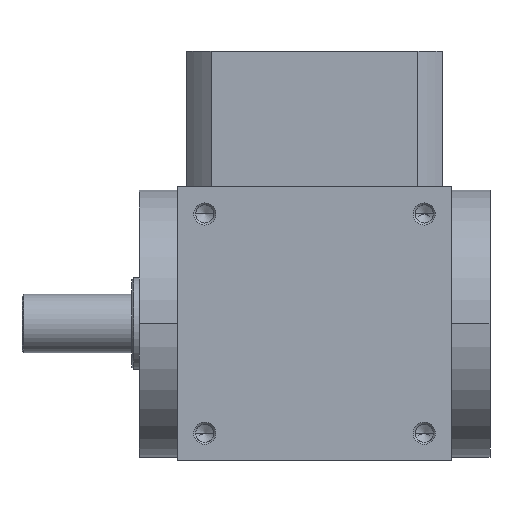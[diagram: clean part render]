
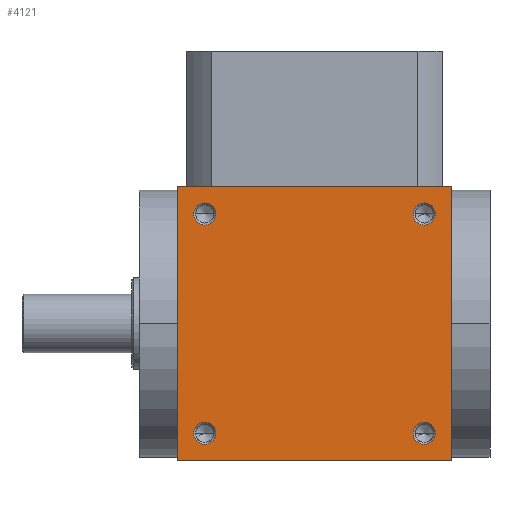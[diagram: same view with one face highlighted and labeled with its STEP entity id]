
A CAD part, front view. The second image highlights one B-rep face of the part: STEP entity #4121.
In plain terms, the highlighted planar face has unit normal (0, -1, 0).
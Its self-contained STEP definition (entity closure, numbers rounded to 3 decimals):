
#15 = FACE_BOUND ( 'NONE', #4663, .T. ) ;
#172 = VERTEX_POINT ( 'NONE', #9677 ) ;
#402 = DIRECTION ( 'NONE',  ( -1., 0., 0. ) ) ;
#453 = CIRCLE ( 'NONE', #8438, 3.025 ) ;
#536 = CARTESIAN_POINT ( 'NONE',  ( 35.842, -49.572, 46. ) ) ;
#553 = ORIENTED_EDGE ( 'NONE', *, *, #8651, .F. ) ;
#616 = ORIENTED_EDGE ( 'NONE', *, *, #8569, .F. ) ;
#950 = EDGE_LOOP ( 'NONE', ( #3427, #10493, #8326, #8794 ) ) ;
#1019 = AXIS2_PLACEMENT_3D ( 'NONE', #3985, #4799, #2172 ) ;
#1033 = AXIS2_PLACEMENT_3D ( 'NONE', #2635, #3812, #402 ) ;
#1080 = DIRECTION ( 'NONE',  ( 0., -1., 0. ) ) ;
#1349 = CARTESIAN_POINT ( 'NONE',  ( 40.317, -49.572, 53.5 ) ) ;
#1392 = VERTEX_POINT ( 'NONE', #1989 ) ;
#1418 = EDGE_CURVE ( 'NONE', #5188, #6609, #6319, .T. ) ;
#1420 = EDGE_CURVE ( 'NONE', #10527, #9536, #5464, .T. ) ;
#1458 = ORIENTED_EDGE ( 'NONE', *, *, #8696, .F. ) ;
#1629 = CARTESIAN_POINT ( 'NONE',  ( 29.792, -49.572, 46. ) ) ;
#1655 = CARTESIAN_POINT ( 'NONE',  ( 2.817, -49.572, 16. ) ) ;
#1762 = CARTESIAN_POINT ( 'NONE',  ( -27.183, -49.572, -14. ) ) ;
#1989 = CARTESIAN_POINT ( 'NONE',  ( -34.683, -49.572, 53.5 ) ) ;
#2042 = ORIENTED_EDGE ( 'NONE', *, *, #2986, .F. ) ;
#2056 = DIRECTION ( 'NONE',  ( 0., -1., 0. ) ) ;
#2172 = DIRECTION ( 'NONE',  ( -1., 0., 0. ) ) ;
#2299 = CARTESIAN_POINT ( 'NONE',  ( -27.183, -49.572, 46. ) ) ;
#2459 = DIRECTION ( 'NONE',  ( 0., 1., 0. ) ) ;
#2482 = AXIS2_PLACEMENT_3D ( 'NONE', #1762, #6271, #9554 ) ;
#2635 = CARTESIAN_POINT ( 'NONE',  ( 32.817, -49.572, -14. ) ) ;
#2738 = EDGE_CURVE ( 'NONE', #6859, #7564, #7023, .T. ) ;
#2867 = DIRECTION ( 'NONE',  ( 0., -1., 0. ) ) ;
#2893 = DIRECTION ( 'NONE',  ( 0., 0., -1. ) ) ;
#2913 = DIRECTION ( 'NONE',  ( 1., 0., 0. ) ) ;
#2969 = DIRECTION ( 'NONE',  ( -1., 0., 0. ) ) ;
#2986 = EDGE_CURVE ( 'NONE', #9685, #172, #5394, .T. ) ;
#3333 = AXIS2_PLACEMENT_3D ( 'NONE', #9837, #2056, #2969 ) ;
#3408 = VECTOR ( 'NONE', #6961, 1000. ) ;
#3427 = ORIENTED_EDGE ( 'NONE', *, *, #8857, .F. ) ;
#3709 = LINE ( 'NONE', #10635, #5163 ) ;
#3751 = LINE ( 'NONE', #6430, #7824 ) ;
#3812 = DIRECTION ( 'NONE',  ( 0., -1., 0. ) ) ;
#3814 = AXIS2_PLACEMENT_3D ( 'NONE', #1655, #2459, #11037 ) ;
#3985 = CARTESIAN_POINT ( 'NONE',  ( 32.817, -49.572, 46. ) ) ;
#4028 = EDGE_LOOP ( 'NONE', ( #10024, #1458 ) ) ;
#4111 = DIRECTION ( 'NONE',  ( 0., -1., 0. ) ) ;
#4121 = ADVANCED_FACE ( 'NONE', ( #7629, #10294, #9386, #15, #9439 ), #5187, .F. ) ;
#4549 = AXIS2_PLACEMENT_3D ( 'NONE', #2299, #4978, #7410 ) ;
#4663 = EDGE_LOOP ( 'NONE', ( #4922, #4759 ) ) ;
#4686 = CARTESIAN_POINT ( 'NONE',  ( -27.183, -49.572, 46. ) ) ;
#4759 = ORIENTED_EDGE ( 'NONE', *, *, #10594, .F. ) ;
#4799 = DIRECTION ( 'NONE',  ( 0., -1., 0. ) ) ;
#4922 = ORIENTED_EDGE ( 'NONE', *, *, #2738, .F. ) ;
#4978 = DIRECTION ( 'NONE',  ( 0., -1., 0. ) ) ;
#5107 = CIRCLE ( 'NONE', #4549, 3.025 ) ;
#5163 = VECTOR ( 'NONE', #2913, 1000. ) ;
#5187 = PLANE ( 'NONE',  #3814 ) ;
#5188 = VERTEX_POINT ( 'NONE', #10864 ) ;
#5394 = CIRCLE ( 'NONE', #2482, 3.025 ) ;
#5464 = LINE ( 'NONE', #6382, #3408 ) ;
#5644 = EDGE_LOOP ( 'NONE', ( #616, #553 ) ) ;
#5650 = AXIS2_PLACEMENT_3D ( 'NONE', #10083, #4111, #8486 ) ;
#6051 = CARTESIAN_POINT ( 'NONE',  ( -34.683, -49.572, -21.5 ) ) ;
#6110 = LINE ( 'NONE', #6051, #8899 ) ;
#6271 = DIRECTION ( 'NONE',  ( 0., -1., 0. ) ) ;
#6319 = CIRCLE ( 'NONE', #1033, 3.025 ) ;
#6343 = DIRECTION ( 'NONE',  ( -1., 0., 0. ) ) ;
#6382 = CARTESIAN_POINT ( 'NONE',  ( -34.683, -49.572, -21.5 ) ) ;
#6430 = CARTESIAN_POINT ( 'NONE',  ( 40.317, -49.572, -21.5 ) ) ;
#6602 = CARTESIAN_POINT ( 'NONE',  ( -30.208, -49.572, 46. ) ) ;
#6609 = VERTEX_POINT ( 'NONE', #8968 ) ;
#6647 = EDGE_CURVE ( 'NONE', #11135, #10527, #3751, .T. ) ;
#6781 = CIRCLE ( 'NONE', #3333, 3.025 ) ;
#6848 = VERTEX_POINT ( 'NONE', #6602 ) ;
#6859 = VERTEX_POINT ( 'NONE', #1629 ) ;
#6961 = DIRECTION ( 'NONE',  ( -1., 0., 0. ) ) ;
#7023 = CIRCLE ( 'NONE', #1019, 3.025 ) ;
#7219 = CARTESIAN_POINT ( 'NONE',  ( 40.317, -49.572, -21.5 ) ) ;
#7410 = DIRECTION ( 'NONE',  ( -1., 0., 0. ) ) ;
#7564 = VERTEX_POINT ( 'NONE', #536 ) ;
#7629 = FACE_BOUND ( 'NONE', #4028, .T. ) ;
#7656 = EDGE_LOOP ( 'NONE', ( #2042, #8355 ) ) ;
#7824 = VECTOR ( 'NONE', #2893, 1000. ) ;
#7877 = EDGE_CURVE ( 'NONE', #172, #9685, #6781, .T. ) ;
#7947 = VERTEX_POINT ( 'NONE', #10066 ) ;
#8326 = ORIENTED_EDGE ( 'NONE', *, *, #6647, .F. ) ;
#8355 = ORIENTED_EDGE ( 'NONE', *, *, #7877, .F. ) ;
#8438 = AXIS2_PLACEMENT_3D ( 'NONE', #9830, #1080, #8863 ) ;
#8486 = DIRECTION ( 'NONE',  ( -1., 0., 0. ) ) ;
#8569 = EDGE_CURVE ( 'NONE', #6848, #7947, #9443, .T. ) ;
#8651 = EDGE_CURVE ( 'NONE', #7947, #6848, #5107, .T. ) ;
#8696 = EDGE_CURVE ( 'NONE', #6609, #5188, #9807, .T. ) ;
#8794 = ORIENTED_EDGE ( 'NONE', *, *, #9127, .F. ) ;
#8857 = EDGE_CURVE ( 'NONE', #9536, #1392, #6110, .T. ) ;
#8863 = DIRECTION ( 'NONE',  ( -1., 0., 0. ) ) ;
#8899 = VECTOR ( 'NONE', #9505, 1000. ) ;
#8968 = CARTESIAN_POINT ( 'NONE',  ( 35.842, -49.572, -14. ) ) ;
#9127 = EDGE_CURVE ( 'NONE', #1392, #11135, #3709, .T. ) ;
#9386 = FACE_BOUND ( 'NONE', #7656, .T. ) ;
#9439 = FACE_OUTER_BOUND ( 'NONE', #950, .T. ) ;
#9443 = CIRCLE ( 'NONE', #9997, 3.025 ) ;
#9505 = DIRECTION ( 'NONE',  ( 0., 0., 1. ) ) ;
#9536 = VERTEX_POINT ( 'NONE', #10509 ) ;
#9554 = DIRECTION ( 'NONE',  ( -1., 0., 0. ) ) ;
#9677 = CARTESIAN_POINT ( 'NONE',  ( -24.158, -49.572, -14. ) ) ;
#9685 = VERTEX_POINT ( 'NONE', #11069 ) ;
#9807 = CIRCLE ( 'NONE', #5650, 3.025 ) ;
#9830 = CARTESIAN_POINT ( 'NONE',  ( 32.817, -49.572, 46. ) ) ;
#9837 = CARTESIAN_POINT ( 'NONE',  ( -27.183, -49.572, -14. ) ) ;
#9997 = AXIS2_PLACEMENT_3D ( 'NONE', #4686, #2867, #6343 ) ;
#10024 = ORIENTED_EDGE ( 'NONE', *, *, #1418, .F. ) ;
#10066 = CARTESIAN_POINT ( 'NONE',  ( -24.158, -49.572, 46. ) ) ;
#10083 = CARTESIAN_POINT ( 'NONE',  ( 32.817, -49.572, -14. ) ) ;
#10294 = FACE_BOUND ( 'NONE', #5644, .T. ) ;
#10493 = ORIENTED_EDGE ( 'NONE', *, *, #1420, .F. ) ;
#10509 = CARTESIAN_POINT ( 'NONE',  ( -34.683, -49.572, -21.5 ) ) ;
#10527 = VERTEX_POINT ( 'NONE', #7219 ) ;
#10594 = EDGE_CURVE ( 'NONE', #7564, #6859, #453, .T. ) ;
#10635 = CARTESIAN_POINT ( 'NONE',  ( -34.683, -49.572, 53.5 ) ) ;
#10864 = CARTESIAN_POINT ( 'NONE',  ( 29.792, -49.572, -14. ) ) ;
#11037 = DIRECTION ( 'NONE',  ( 1., 0., 0. ) ) ;
#11069 = CARTESIAN_POINT ( 'NONE',  ( -30.208, -49.572, -14. ) ) ;
#11135 = VERTEX_POINT ( 'NONE', #1349 ) ;
